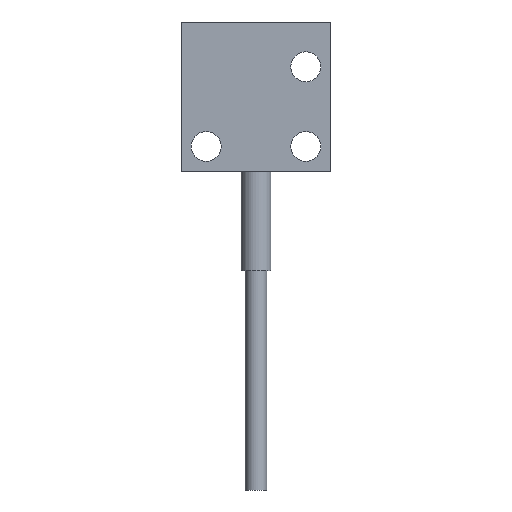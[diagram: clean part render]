
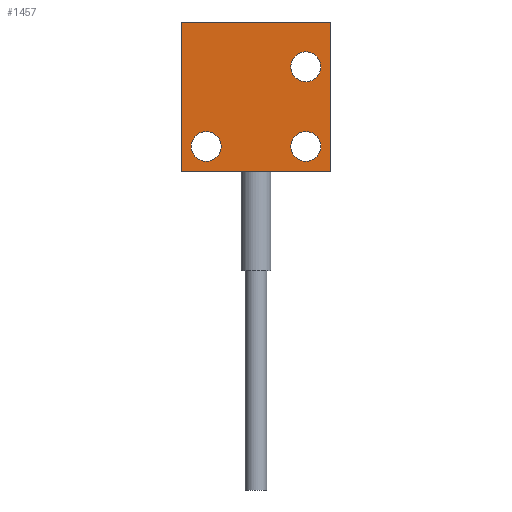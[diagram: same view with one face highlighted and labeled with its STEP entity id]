
A CAD part, front view. The second image highlights one B-rep face of the part: STEP entity #1457.
In plain terms, the highlighted planar face has unit normal (0, -1, 0).
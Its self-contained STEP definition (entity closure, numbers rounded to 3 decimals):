
#311 = EDGE_CURVE ( 'NONE', #1346, #1552, #1026, .T. ) ;
#333 = EDGE_CURVE ( 'NONE', #1538, #1343, #998, .T. ) ;
#838 = CARTESIAN_POINT ( 'NONE',  ( 12.5, -2.5, -6.5 ) ) ;
#839 = CARTESIAN_POINT ( 'NONE',  ( 12.5, -2.5, -3.5 ) ) ;
#840 = DIRECTION ( 'NONE',  ( 0., 0., 1. ) ) ;
#841 = DIRECTION ( 'NONE',  ( 0., 1., 0. ) ) ;
#842 = CARTESIAN_POINT ( 'NONE',  ( 12.5, -2.5, -5. ) ) ;
#843 = AXIS2_PLACEMENT_3D ( 'NONE', #842, #841, #840 ) ;
#844 = CIRCLE ( 'NONE', #843, 1.5 ) ;
#845 = CARTESIAN_POINT ( 'NONE',  ( 4.5, -2.5, 6.5 ) ) ;
#846 = CARTESIAN_POINT ( 'NONE',  ( 4.5, -2.5, 3.5 ) ) ;
#847 = DIRECTION ( 'NONE',  ( 0., 0., 1. ) ) ;
#848 = DIRECTION ( 'NONE',  ( 0., 1., 0. ) ) ;
#849 = CARTESIAN_POINT ( 'NONE',  ( 4.5, -2.5, 5. ) ) ;
#850 = AXIS2_PLACEMENT_3D ( 'NONE', #849, #848, #847 ) ;
#855 = CIRCLE ( 'NONE', #850, 1.5 ) ;
#995 = DIRECTION ( 'NONE',  ( -1., 0., 0. ) ) ;
#996 = VECTOR ( 'NONE', #995, 1000. ) ;
#997 = CARTESIAN_POINT ( 'NONE',  ( 0., -2.5, -7.5 ) ) ;
#998 = LINE ( 'NONE', #997, #996 ) ;
#1023 = DIRECTION ( 'NONE',  ( 1., 0., 0. ) ) ;
#1024 = VECTOR ( 'NONE', #1023, 1000. ) ;
#1025 = CARTESIAN_POINT ( 'NONE',  ( 0., -2.5, 7.5 ) ) ;
#1026 = LINE ( 'NONE', #1025, #1024 ) ;
#1131 = CARTESIAN_POINT ( 'NONE',  ( 12.5, -2.5, 6.5 ) ) ;
#1132 = CARTESIAN_POINT ( 'NONE',  ( 12.5, -2.5, 3.5 ) ) ;
#1133 = DIRECTION ( 'NONE',  ( 0., 0., 1. ) ) ;
#1134 = DIRECTION ( 'NONE',  ( 0., 1., 0. ) ) ;
#1135 = CARTESIAN_POINT ( 'NONE',  ( 12.5, -2.5, 5. ) ) ;
#1136 = AXIS2_PLACEMENT_3D ( 'NONE', #1135, #1134, #1133 ) ;
#1137 = CIRCLE ( 'NONE', #1136, 1.5 ) ;
#1214 = CARTESIAN_POINT ( 'NONE',  ( 0., -2.5, 7.5 ) ) ;
#1215 = DIRECTION ( 'NONE',  ( 0., 0., 1. ) ) ;
#1216 = VECTOR ( 'NONE', #1215, 1000. ) ;
#1217 = CARTESIAN_POINT ( 'NONE',  ( 0., -2.5, -7.5 ) ) ;
#1218 = LINE ( 'NONE', #1217, #1216 ) ;
#1219 = CARTESIAN_POINT ( 'NONE',  ( 0., -2.5, -7.5 ) ) ;
#1266 = EDGE_CURVE ( 'NONE', #1267, #1268, #855, .T. ) ;
#1267 = VERTEX_POINT ( 'NONE', #846 ) ;
#1268 = VERTEX_POINT ( 'NONE', #845 ) ;
#1270 = EDGE_CURVE ( 'NONE', #1273, #1271, #844, .T. ) ;
#1271 = VERTEX_POINT ( 'NONE', #839 ) ;
#1273 = VERTEX_POINT ( 'NONE', #838 ) ;
#1343 = VERTEX_POINT ( 'NONE', #1219 ) ;
#1345 = EDGE_CURVE ( 'NONE', #1343, #1346, #1218, .T. ) ;
#1346 = VERTEX_POINT ( 'NONE', #1214 ) ;
#1410 = EDGE_CURVE ( 'NONE', #1411, #1412, #1137, .T. ) ;
#1411 = VERTEX_POINT ( 'NONE', #1132 ) ;
#1412 = VERTEX_POINT ( 'NONE', #1131 ) ;
#1422 = EDGE_LOOP ( 'NONE', ( #1423, #1425 ) ) ;
#1423 = ORIENTED_EDGE ( 'NONE', *, *, #1424, .T. ) ;
#1424 = EDGE_CURVE ( 'NONE', #1268, #1267, #1668, .T. ) ;
#1425 = ORIENTED_EDGE ( 'NONE', *, *, #1266, .T. ) ;
#1426 = EDGE_LOOP ( 'NONE', ( #1427, #1472, #1473, #1474 ) ) ;
#1427 = ORIENTED_EDGE ( 'NONE', *, *, #1345, .F. ) ;
#1433 = ORIENTED_EDGE ( 'NONE', *, *, #1270, .T. ) ;
#1457 = ADVANCED_FACE ( 'NONE', ( #1645, #1644, #1643, #1642 ), #1641, .F. ) ;
#1458 = EDGE_LOOP ( 'NONE', ( #1488, #1490 ) ) ;
#1472 = ORIENTED_EDGE ( 'NONE', *, *, #333, .F. ) ;
#1473 = ORIENTED_EDGE ( 'NONE', *, *, #1537, .F. ) ;
#1474 = ORIENTED_EDGE ( 'NONE', *, *, #311, .F. ) ;
#1475 = EDGE_LOOP ( 'NONE', ( #1476, #1433 ) ) ;
#1476 = ORIENTED_EDGE ( 'NONE', *, *, #1477, .T. ) ;
#1477 = EDGE_CURVE ( 'NONE', #1271, #1273, #1581, .T. ) ;
#1488 = ORIENTED_EDGE ( 'NONE', *, *, #1489, .T. ) ;
#1489 = EDGE_CURVE ( 'NONE', #1412, #1411, #1737, .T. ) ;
#1490 = ORIENTED_EDGE ( 'NONE', *, *, #1410, .T. ) ;
#1537 = EDGE_CURVE ( 'NONE', #1552, #1538, #1744, .T. ) ;
#1538 = VERTEX_POINT ( 'NONE', #1794 ) ;
#1552 = VERTEX_POINT ( 'NONE', #1778 ) ;
#1577 = DIRECTION ( 'NONE',  ( 0., 0., 1. ) ) ;
#1578 = DIRECTION ( 'NONE',  ( 0., 1., 0. ) ) ;
#1579 = CARTESIAN_POINT ( 'NONE',  ( 12.5, -2.5, -5. ) ) ;
#1580 = AXIS2_PLACEMENT_3D ( 'NONE', #1579, #1578, #1577 ) ;
#1581 = CIRCLE ( 'NONE', #1580, 1.5 ) ;
#1601 = DIRECTION ( 'NONE',  ( 0., 0., 1. ) ) ;
#1602 = DIRECTION ( 'NONE',  ( 0., 1., 0. ) ) ;
#1637 = DIRECTION ( 'NONE',  ( 0., 0., 1. ) ) ;
#1638 = DIRECTION ( 'NONE',  ( 0., 1., 0. ) ) ;
#1639 = CARTESIAN_POINT ( 'NONE',  ( 0., -2.5, 7.5 ) ) ;
#1640 = AXIS2_PLACEMENT_3D ( 'NONE', #1639, #1638, #1637 ) ;
#1641 = PLANE ( 'NONE',  #1640 ) ;
#1642 = FACE_BOUND ( 'NONE', #1475, .T. ) ;
#1643 = FACE_OUTER_BOUND ( 'NONE', #1426, .T. ) ;
#1644 = FACE_BOUND ( 'NONE', #1422, .T. ) ;
#1645 = FACE_BOUND ( 'NONE', #1458, .T. ) ;
#1660 = AXIS2_PLACEMENT_3D ( 'NONE', #1661, #1602, #1601 ) ;
#1661 = CARTESIAN_POINT ( 'NONE',  ( 4.5, -2.5, 5. ) ) ;
#1668 = CIRCLE ( 'NONE', #1660, 1.5 ) ;
#1733 = DIRECTION ( 'NONE',  ( 0., 0., 1. ) ) ;
#1734 = DIRECTION ( 'NONE',  ( 0., 1., 0. ) ) ;
#1735 = CARTESIAN_POINT ( 'NONE',  ( 12.5, -2.5, 5. ) ) ;
#1736 = AXIS2_PLACEMENT_3D ( 'NONE', #1735, #1734, #1733 ) ;
#1737 = CIRCLE ( 'NONE', #1736, 1.5 ) ;
#1744 = LINE ( 'NONE', #1797, #1796 ) ;
#1778 = CARTESIAN_POINT ( 'NONE',  ( 15., -2.5, 7.5 ) ) ;
#1794 = CARTESIAN_POINT ( 'NONE',  ( 15., -2.5, -7.5 ) ) ;
#1795 = DIRECTION ( 'NONE',  ( 0., 0., -1. ) ) ;
#1796 = VECTOR ( 'NONE', #1795, 1000. ) ;
#1797 = CARTESIAN_POINT ( 'NONE',  ( 15., -2.5, -7.5 ) ) ;
